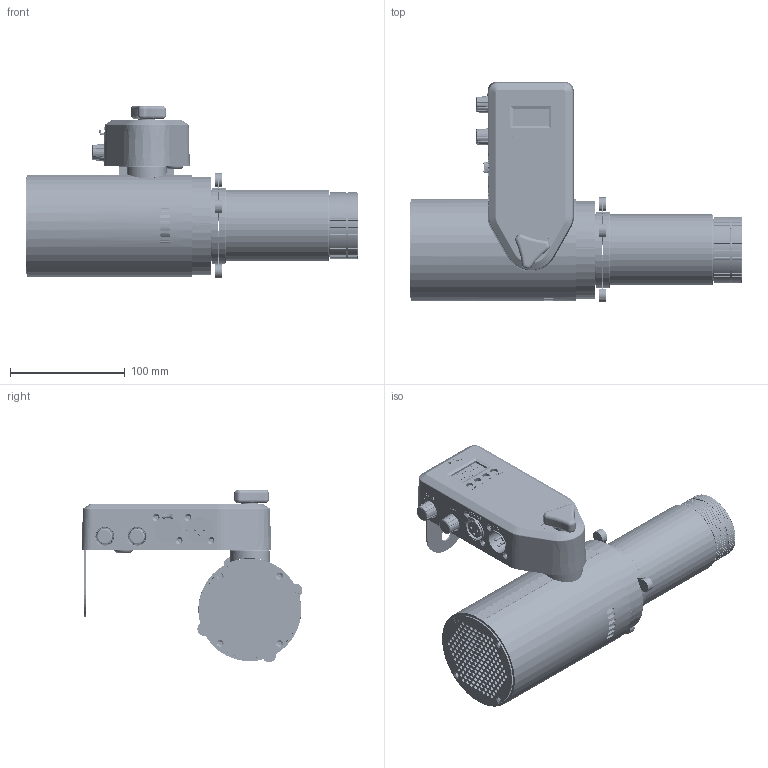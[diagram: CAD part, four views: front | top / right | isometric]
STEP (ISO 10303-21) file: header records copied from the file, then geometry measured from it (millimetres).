
FILE_DESCRIPTION (( 'STEP AP203' ), '1' );
FILE_NAME ('Artisan5060-3D.STEP', '2025-04-09T05:29:15', ( '' ), ( '' ), 'SwSTEP 2.0', 'SolidWorks 2023', '' );
FILE_SCHEMA (( 'CONFIG_CONTROL_DESIGN' ));
Length unit declared in the file: millimetre
Products named in the file (15): Artisan5060(2)^Artisan5060; 中筒连接件^Artisan5060(2)_Artisan5060; 控制盒^散热器带控制盒_Artisan5060(2)_Artisan5060; 滚齿-通孔^散热器带控制盒_Artisan5060(2)_Artisan5060; 滚齿-M6^散热器带控制盒_Artisan5060(2)_Artisan5060; 1^Artisan5060(2)_Artisan5060; m10x0.75径向锁紧螺母^散热器带控制盒_Artisan5060(2)_Artisan5060; 控制盒连接件A^散热器带控制盒_Artisan5060(2)_Artisan5060; YS-2024-203-PA66+30GF1.005^控制盒_散热器带控制盒_Artisan5060(2)_Artisan5060; 三角手拧螺母^散热器带控制盒_Artisan5060(2)_Artisan5060; gallery50散热器(旧改）^散热器带控制盒_Artisan5060(2)_Artisan5060; Artisan5060-3D; 零件4^Artisan5060(2)_Artisan5060; 散热器带控制盒^Artisan5060(2)_Artisan5060; 后面板_1^Artisan5060(2)_Artisan5060
Assembly tree (14 placements, depth 5):
  Artisan5060-3D
    Artisan5060(2)^Artisan5060
      散热器带控制盒^Artisan5060(2)_Artisan5060
        控制盒^散热器带控制盒_Artisan5060(2)_Artisan5060
          YS-2024-203-PA66+30GF1.005^控制盒_散热器带控制盒_Artisan5060(2)_Artisan5060
        gallery50散热器(旧改）^散热器带控制盒_Artisan5060(2)_Artisan5060
        控制盒连接件A^散热器带控制盒_Artisan5060(2)_Artisan5060
        滚齿-M6^散热器带控制盒_Artisan5060(2)_Artisan5060
        滚齿-通孔^散热器带控制盒_Artisan5060(2)_Artisan5060
        m10x0.75径向锁紧螺母^散热器带控制盒_Artisan5060(2)_Artisan5060
        三角手拧螺母^散热器带控制盒_Artisan5060(2)_Artisan5060
      零件4^Artisan5060(2)_Artisan5060
      中筒连接件^Artisan5060(2)_Artisan5060
      后面板_1^Artisan5060(2)_Artisan5060
      1^Artisan5060(2)_Artisan5060
Bounding box: 288.81 x 191.81 x 149.99 mm (x, y, z)
Volume: 721383.5 mm3; surface area: 367874.6 mm2
Topology: 36 solids, 36 shells, 4152 faces, 11347 edges, 7392 vertices
Faces by surface type: plane 2385, cylinder 899, bspline 644, cone 109, torus 87, sphere 28
Full cylindrical faces by diameter (mm): 1 x6, 2 x6, 2.3 x6, 2.5 x33, 2.65 x1, 3 x175, 3.2 x34, 3.3 x4, 3.5 x6, 3.76 x2, 4.2 x2, 4.3 x2, 5 x17, 5.5 x8, 6 x3, 6.2 x2, 6.5 x7, 6.6 x8, 7 x1, 8 x4, 10 x3, 12 x5, 13 x3, 15 x1, 15.5 x2, 19.8 x2, 21.8 x2, 22.8 x2, 30 x1, 32 x2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
Entity records: 168290 total; most frequent: CARTESIAN_POINT 71249, ORIENTED_EDGE 21362, DIRECTION 16642, EDGE_CURVE 10681, VERTEX_POINT 7204, AXIS2_PLACEMENT_3D 5628, LINE 5386, VECTOR 5386
